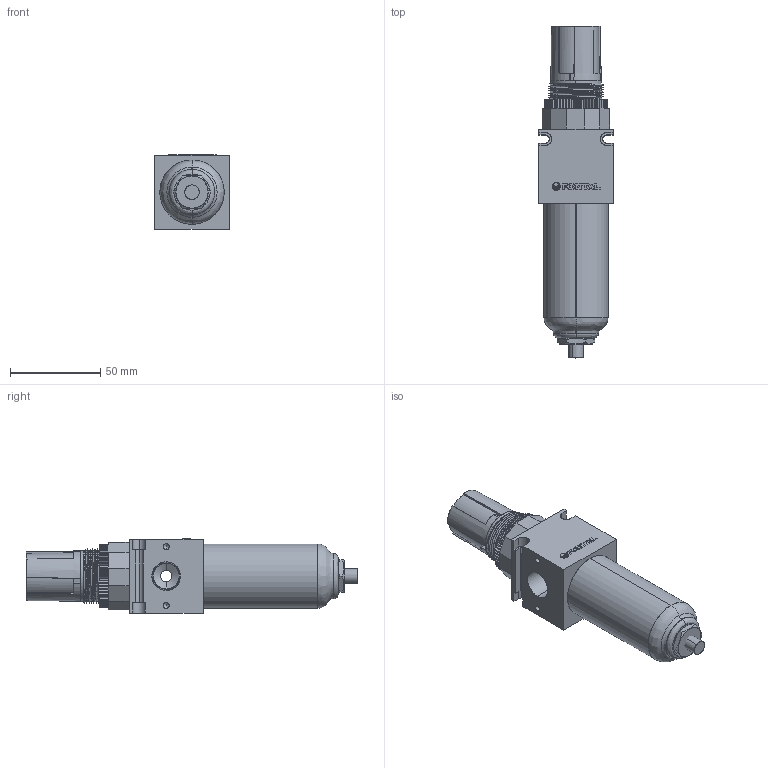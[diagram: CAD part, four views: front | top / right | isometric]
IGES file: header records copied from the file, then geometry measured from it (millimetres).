
Start section: SolidWorks IGES file using analytic representation for surfaces
Global section: file name: C:\Users\Toshiba\Desktop\B45#-03#Y##.IGS; native system: SolidWorks 2014; preprocessor: SolidWorks 2014; author: Toshiba; date: 160203.154732; units: millimetre
Bounding box: 41 x 183.5 x 41.12 mm (x, y, z)
Surface area: 37688.4 mm2 (no closed solid volume)
Topology: 0 solids, 0 shells, 474 faces, 4543 edges, 4535 vertices
Faces by surface type: bspline 304, revolution 170
